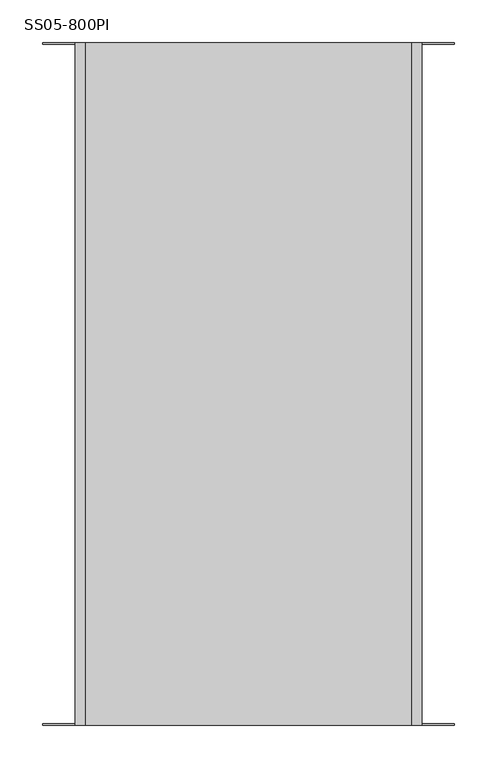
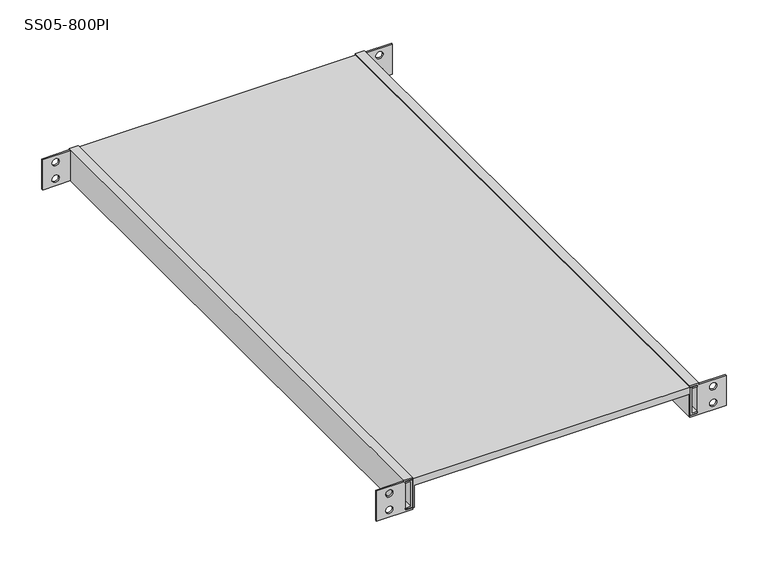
"""IFC4 building model written with IfcOpenShell, lengths in millimetres: proxy geometry, Полки выдвижные : SS05-800PI."""

from ifc_helpers import new_model, si_unit, frame, origin, place, context, project, spatial, polyline, circle_curve, outline, extrude, source, transform, mapped, element, save
from ifc_brep_helpers import plane_surface, revolved_surface, advanced_brep


def ss05_800pi_71e741bb(model_context):
    return source(origin(), model_context, "Body", "SolidModel", [
        extrude(outline(polyline([(44.0, 191.5), (44.0, -191.5), (2.0, -191.5), (2.0, -189.4739095), (34.0, -189.4739095), (34.0, 189.4778277), (2.0, 189.4778277), (2.0, 191.5), (44.0, 191.5)])), frame((0.0, -400.0, 0.0), z_axis=(0.0, 1.0, 0.0), x_axis=(0.0, 0.0, 1.0)), (0.0, 0.0, 1.0), 800.0),
        extrude(outline(polyline([(2.9820525, -191.8921581), (43.0432121, -191.8921581), (43.0432121, -201.5), (41.0432121, -201.5), (41.0432121, -193.8921581), (4.9820525, -193.8921581), (4.9820525, -201.5), (2.9820525, -201.5), (2.9820525, -191.8921581)])), frame((0.0, -400.0, 0.0), z_axis=(0.0, 1.0, 0.0), x_axis=(0.0, 0.0, 1.0)), (0.0, 0.0, 1.0), 800.0),
        extrude(outline(polyline([(2.9820525, 191.8921581), (2.9820525, 201.5), (4.9820525, 201.5), (4.9820525, 193.8921581), (41.0432121, 193.8921581), (41.0432121, 201.5), (43.0432121, 201.5), (43.0432121, 191.8921581), (2.9820525, 191.8921581)])), frame((0.0, -400.0, 0.0), z_axis=(0.0, 1.0, 0.0), x_axis=(0.0, 0.0, 1.0)), (0.0, 0.0, 1.0), 800.0),
        advanced_brep(
        [(-241.5, 398.0, 44.0), (-203.5, 398.0, 44.0), (-203.5, 400.0, 44.0), (-241.5, 400.0, 44.0), (-203.5, -398.0, 44.0), (-241.5, -398.0, 44.0), (-241.5, -400.0, 44.0), (-203.5, -400.0, 44.0), (-241.5, 398.0, 0.0), (-241.5, 400.0, 0.0), (-191.5, 400.0, 0.0), (-191.5, -400.0, 0.0), (-241.5, -400.0, 0.0), (-241.5, -398.0, 0.0), (-203.5, -398.0, 0.0), (-203.5, 398.0, 0.0), (-218.6086696, 398.0, 34.0), (-228.6086696, 398.0, 34.0), (-218.6086696, 398.0, 10.0), (-228.6086696, 398.0, 10.0), (-203.5, 400.0, 46.0), (-191.5, 400.0, 46.0), (-191.5, 400.0, 44.0), (-201.5, 400.0, 44.0), (-201.5, 400.0, 2.0), (-191.5, 400.0, 2.0), (-228.6086696, 400.0, 34.0), (-218.6086696, 400.0, 34.0), (-228.6086696, 400.0, 10.0), (-218.6086696, 400.0, 10.0), (-228.6086696, -398.0, 34.0), (-218.6086696, -398.0, 34.0), (-228.6086696, -398.0, 10.0), (-218.6086696, -398.0, 10.0), (-191.5, -400.0, 2.0), (-201.5, -400.0, 2.0), (-201.5, -400.0, 44.0), (-191.5, -400.0, 44.0), (-191.5, -400.0, 46.0), (-203.5, -400.0, 46.0), (-218.6086696, -400.0, 34.0), (-228.6086696, -400.0, 34.0), (-218.6086696, -400.0, 10.0), (-228.6086696, -400.0, 10.0)],
        [
            (0, 1),
            (1, 2),
            (2, 3),
            (3, 0),
            (4, 5),
            (5, 6),
            (6, 7),
            (7, 4),
            (8, 9),
            (9, 10),
            (10, 11),
            (11, 12),
            (12, 13),
            (13, 14),
            (14, 15),
            (15, 8),
            (0, 8),
            (15, 1),
            (16, 17, circle_curve(frame((-223.6086696, 398.0, 34.0), z_axis=(0.0, 1.0, 0.0), x_axis=(1.0, 0.0, 0.0)), 5.0)),
            (17, 16, circle_curve(frame((-223.6086696, 398.0, 34.0), z_axis=(0.0, 1.0, 0.0), x_axis=(1.0, 0.0, 0.0)), 5.0)),
            (18, 19, circle_curve(frame((-223.6086696, 398.0, 10.0), z_axis=(0.0, 1.0, 0.0), x_axis=(1.0, 0.0, 0.0)), 5.0)),
            (19, 18, circle_curve(frame((-223.6086696, 398.0, 10.0), z_axis=(0.0, 1.0, 0.0), x_axis=(1.0, 0.0, 0.0)), 5.0)),
            (2, 20),
            (20, 21),
            (21, 22),
            (22, 23),
            (23, 24),
            (24, 25),
            (25, 10),
            (9, 3),
            (26, 27, circle_curve(frame((-223.6086696, 400.0, 34.0), z_axis=(0.0, -1.0, 0.0), x_axis=(1.0, 0.0, 0.0)), 5.0)),
            (27, 26, circle_curve(frame((-223.6086696, 400.0, 34.0), z_axis=(0.0, -1.0, 0.0), x_axis=(1.0, 0.0, 0.0)), 5.0)),
            (28, 29, circle_curve(frame((-223.6086696, 400.0, 10.0), z_axis=(0.0, -1.0, 0.0), x_axis=(1.0, 0.0, 0.0)), 5.0)),
            (29, 28, circle_curve(frame((-223.6086696, 400.0, 10.0), z_axis=(0.0, -1.0, 0.0), x_axis=(1.0, 0.0, 0.0)), 5.0)),
            (4, 14),
            (13, 5),
            (30, 31, circle_curve(frame((-223.6086696, -398.0, 34.0), z_axis=(0.0, -1.0, 0.0), x_axis=(1.0, 0.0, 0.0)), 5.0)),
            (31, 30, circle_curve(frame((-223.6086696, -398.0, 34.0), z_axis=(0.0, -1.0, 0.0), x_axis=(1.0, 0.0, 0.0)), 5.0)),
            (32, 33, circle_curve(frame((-223.6086696, -398.0, 10.0), z_axis=(0.0, -1.0, 0.0), x_axis=(1.0, 0.0, 0.0)), 5.0)),
            (33, 32, circle_curve(frame((-223.6086696, -398.0, 10.0), z_axis=(0.0, -1.0, 0.0), x_axis=(1.0, 0.0, 0.0)), 5.0)),
            (12, 6),
            (11, 34),
            (34, 35),
            (35, 36),
            (36, 37),
            (37, 38),
            (38, 39),
            (39, 7),
            (40, 41, circle_curve(frame((-223.6086696, -400.0, 34.0), z_axis=(0.0, 1.0, 0.0), x_axis=(1.0, 0.0, 0.0)), 5.0)),
            (41, 40, circle_curve(frame((-223.6086696, -400.0, 34.0), z_axis=(0.0, 1.0, 0.0), x_axis=(1.0, 0.0, 0.0)), 5.0)),
            (42, 43, circle_curve(frame((-223.6086696, -400.0, 10.0), z_axis=(0.0, 1.0, 0.0), x_axis=(1.0, 0.0, 0.0)), 5.0)),
            (43, 42, circle_curve(frame((-223.6086696, -400.0, 10.0), z_axis=(0.0, 1.0, 0.0), x_axis=(1.0, 0.0, 0.0)), 5.0)),
            (37, 22),
            (21, 38),
            (20, 39),
            (25, 34),
            (24, 35),
            (23, 36),
            (26, 17),
            (16, 27),
            (30, 41),
            (40, 31),
            (28, 19),
            (18, 29),
            (32, 43),
            (42, 33),
        ],
        [
            plane_surface(frame((-203.5, 398.0, 44.0), z_axis=(0.0, 0.0, 1.0), x_axis=(1.0, 0.0, 0.0))),
            plane_surface(frame((-203.5, 398.0, 0.0), z_axis=(0.0, 0.0, -1.0), x_axis=(-1.0, 0.0, 0.0))),
            plane_surface(frame((-241.5, 398.0, 44.0), z_axis=(0.0, -1.0, 0.0), x_axis=(0.0, 0.0, -1.0))),
            plane_surface(frame((-203.5, 400.0, 44.0), z_axis=(0.0, 1.0, 0.0), x_axis=(0.0, 0.0, -1.0))),
            plane_surface(frame((-241.5, 400.0, 44.0), z_axis=(-1.0, 0.0, 0.0), x_axis=(0.0, 0.0, -1.0))),
            plane_surface(frame((-203.5, -398.0, 44.0), z_axis=(0.0, 1.0, 0.0), x_axis=(0.0, 0.0, -1.0))),
            plane_surface(frame((-241.5, -398.0, 44.0), z_axis=(-1.0, 0.0, 0.0), x_axis=(0.0, 0.0, -1.0))),
            plane_surface(frame((-241.5, -400.0, 44.0), z_axis=(0.0, -1.0, 0.0), x_axis=(0.0, 0.0, -1.0))),
            plane_surface(frame((-191.5, -400.0, 44.0), z_axis=(1.0, 0.0, 0.0), x_axis=(0.0, 1.0, 0.0))),
            plane_surface(frame((-191.5, -400.0, 46.0), z_axis=(0.0, 0.0, 1.0), x_axis=(0.0, 1.0, 0.0))),
            plane_surface(frame((-203.5, -400.0, 46.0), z_axis=(-1.0, 0.0, 0.0), x_axis=(0.0, 1.0, 0.0))),
            plane_surface(frame((-191.5, -400.0, 0.0), z_axis=(1.0, 0.0, 0.0), x_axis=(0.0, 1.0, 0.0))),
            plane_surface(frame((-191.5, -400.0, 2.0), z_axis=(0.0, 0.0, 1.0), x_axis=(0.0, 1.0, 0.0))),
            plane_surface(frame((-201.5, -400.0, 2.0), z_axis=(1.0, 0.0, 0.0), x_axis=(0.0, 1.0, 0.0))),
            plane_surface(frame((-201.5, -400.0, 44.0), z_axis=(0.0, 0.0, -1.0), x_axis=(0.0, 1.0, 0.0))),
            revolved_surface(polyline([(-218.6086696, 398.0, 34.0), (-218.6086696, 400.0, 34.0)]), (-223.6086696, 400.0, 34.0), (0.0, -1.0, 0.0)),
            revolved_surface(polyline([(-218.6086696, -400.0, 34.0), (-218.6086696, -398.0, 34.0)]), (-223.6086696, 400.0, 34.0), (0.0, -1.0, 0.0)),
            revolved_surface(polyline([(-218.6086696, 398.0, 10.0), (-218.6086696, 400.0, 10.0)]), (-223.6086696, 0.0, 10.0), (0.0, -1.0, 0.0)),
            revolved_surface(polyline([(-218.6086696, -400.0, 10.0), (-218.6086696, -398.0, 10.0)]), (-223.6086696, 0.0, 10.0), (0.0, -1.0, 0.0)),
        ],
        [
            (0, [[1, 2, 3, 4]]),
            (0, [[5, 6, 7, 8]]),
            (1, [[9, 10, 11, 12, 13, 14, 15, 16]]),
            (2, [[-1, 17, -16, 18], [19, 20], [21, 22]]),
            (3, [[-3, 23, 24, 25, 26, 27, 28, 29, -10, 30], [31, 32], [33, 34]]),
            (4, [[-4, -30, -9, -17]]),
            (5, [[-5, 35, -14, 36], [37, 38], [39, 40]]),
            (6, [[-6, -36, -13, 41]]),
            (7, [[-7, -41, -12, 42, 43, 44, 45, 46, 47, 48], [49, 50], [51, 52]]),
            (8, [[-46, 53, -25, 54]]),
            (9, [[-47, -54, -24, 55]]),
            (10, [[-55, -23, -2, -18, -15, -35, -8, -48]]),
            (11, [[-42, -11, -29, 56]]),
            (12, [[-43, -56, -28, 57]]),
            (13, [[-44, -57, -27, 58]]),
            (14, [[-45, -58, -26, -53]]),
            (15, [[59, -19, 60, -31]]),
            (16, [[61, -49, 62, -37]]),
            (15, [[-59, -32, -60, -20]]),
            (16, [[-61, -38, -62, -50]]),
            (17, [[63, -21, 64, -33]]),
            (18, [[65, -51, 66, -39]]),
            (17, [[-63, -34, -64, -22]]),
            (18, [[-65, -40, -66, -52]]),
        ],
    ),
        advanced_brep(
        [(241.5, -398.0, 44.0), (203.5, -398.0, 44.0), (203.5, -400.0, 44.0), (241.5, -400.0, 44.0), (241.5, 400.0, 44.0), (203.5, 400.0, 44.0), (203.5, 398.0, 44.0), (241.5, 398.0, 44.0), (241.5, -398.0, 0.0), (241.5, -400.0, 0.0), (191.5, -400.0, 0.0), (191.5, 400.0, 0.0), (241.5, 400.0, 0.0), (241.5, 398.0, 0.0), (203.5, 398.0, 0.0), (203.5, -398.0, 0.0), (191.5, 400.0, 2.0), (201.5, 400.0, 2.0), (201.5, 400.0, 44.0), (191.5, 400.0, 44.0), (191.5, 400.0, 46.0), (203.5, 400.0, 46.0), (218.6086696, 400.0, 34.0), (228.6086696, 400.0, 34.0), (218.6086696, 400.0, 10.0), (228.6086696, 400.0, 10.0), (203.5, -400.0, 46.0), (191.5, -400.0, 46.0), (191.5, -400.0, 44.0), (201.5, -400.0, 44.0), (201.5, -400.0, 2.0), (191.5, -400.0, 2.0), (228.6086696, -400.0, 34.0), (218.6086696, -400.0, 34.0), (228.6086696, -400.0, 10.0), (218.6086696, -400.0, 10.0), (218.6086696, -398.0, 34.0), (228.6086696, -398.0, 34.0), (218.6086696, -398.0, 10.0), (228.6086696, -398.0, 10.0), (228.6086696, 398.0, 34.0), (218.6086696, 398.0, 34.0), (228.6086696, 398.0, 10.0), (218.6086696, 398.0, 10.0)],
        [
            (0, 1),
            (1, 2),
            (2, 3),
            (3, 0),
            (4, 5),
            (5, 6),
            (6, 7),
            (7, 4),
            (8, 9),
            (9, 10),
            (10, 11),
            (11, 12),
            (12, 13),
            (13, 14),
            (14, 15),
            (15, 8),
            (4, 12),
            (11, 16),
            (16, 17),
            (17, 18),
            (18, 19),
            (19, 20),
            (20, 21),
            (21, 5),
            (22, 23, circle_curve(frame((223.6086696, 400.0, 34.0), z_axis=(0.0, -1.0, 0.0), x_axis=(1.0, 0.0, 0.0)), 5.0)),
            (23, 22, circle_curve(frame((223.6086696, 400.0, 34.0), z_axis=(0.0, -1.0, 0.0), x_axis=(1.0, 0.0, 0.0)), 5.0)),
            (24, 25, circle_curve(frame((223.6086696, 400.0, 10.0), z_axis=(0.0, -1.0, 0.0), x_axis=(1.0, 0.0, 0.0)), 5.0)),
            (25, 24, circle_curve(frame((223.6086696, 400.0, 10.0), z_axis=(0.0, -1.0, 0.0), x_axis=(1.0, 0.0, 0.0)), 5.0)),
            (2, 26),
            (26, 27),
            (27, 28),
            (28, 29),
            (29, 30),
            (30, 31),
            (31, 10),
            (9, 3),
            (32, 33, circle_curve(frame((223.6086696, -400.0, 34.0), z_axis=(0.0, 1.0, 0.0), x_axis=(1.0, 0.0, 0.0)), 5.0)),
            (33, 32, circle_curve(frame((223.6086696, -400.0, 34.0), z_axis=(0.0, 1.0, 0.0), x_axis=(1.0, 0.0, 0.0)), 5.0)),
            (34, 35, circle_curve(frame((223.6086696, -400.0, 10.0), z_axis=(0.0, 1.0, 0.0), x_axis=(1.0, 0.0, 0.0)), 5.0)),
            (35, 34, circle_curve(frame((223.6086696, -400.0, 10.0), z_axis=(0.0, 1.0, 0.0), x_axis=(1.0, 0.0, 0.0)), 5.0)),
            (0, 8),
            (15, 1),
            (36, 37, circle_curve(frame((223.6086696, -398.0, 34.0), z_axis=(0.0, -1.0, 0.0), x_axis=(1.0, 0.0, 0.0)), 5.0)),
            (37, 36, circle_curve(frame((223.6086696, -398.0, 34.0), z_axis=(0.0, -1.0, 0.0), x_axis=(1.0, 0.0, 0.0)), 5.0)),
            (38, 39, circle_curve(frame((223.6086696, -398.0, 10.0), z_axis=(0.0, -1.0, 0.0), x_axis=(1.0, 0.0, 0.0)), 5.0)),
            (39, 38, circle_curve(frame((223.6086696, -398.0, 10.0), z_axis=(0.0, -1.0, 0.0), x_axis=(1.0, 0.0, 0.0)), 5.0)),
            (6, 14),
            (13, 7),
            (40, 41, circle_curve(frame((223.6086696, 398.0, 34.0), z_axis=(0.0, 1.0, 0.0), x_axis=(1.0, 0.0, 0.0)), 5.0)),
            (41, 40, circle_curve(frame((223.6086696, 398.0, 34.0), z_axis=(0.0, 1.0, 0.0), x_axis=(1.0, 0.0, 0.0)), 5.0)),
            (42, 43, circle_curve(frame((223.6086696, 398.0, 10.0), z_axis=(0.0, 1.0, 0.0), x_axis=(1.0, 0.0, 0.0)), 5.0)),
            (43, 42, circle_curve(frame((223.6086696, 398.0, 10.0), z_axis=(0.0, 1.0, 0.0), x_axis=(1.0, 0.0, 0.0)), 5.0)),
            (28, 19),
            (18, 29),
            (17, 30),
            (16, 31),
            (21, 26),
            (20, 27),
            (36, 33),
            (32, 37),
            (22, 41),
            (40, 23),
            (38, 35),
            (34, 39),
            (24, 43),
            (42, 25),
        ],
        [
            plane_surface(frame((-203.5, 398.0, 44.0), z_axis=(0.0, 0.0, 1.0), x_axis=(1.0, 0.0, 0.0))),
            plane_surface(frame((-203.5, 398.0, 0.0), z_axis=(0.0, 0.0, -1.0), x_axis=(-1.0, 0.0, 0.0))),
            plane_surface(frame((-203.5, 400.0, 44.0), z_axis=(0.0, 1.0, 0.0), x_axis=(0.0, 0.0, -1.0))),
            plane_surface(frame((-241.5, -400.0, 44.0), z_axis=(0.0, -1.0, 0.0), x_axis=(0.0, 0.0, -1.0))),
            plane_surface(frame((241.5, -398.0, 44.0), z_axis=(0.0, 1.0, 0.0), x_axis=(0.0, 0.0, -1.0))),
            plane_surface(frame((241.5, -400.0, 44.0), z_axis=(1.0, 0.0, 0.0), x_axis=(0.0, 0.0, -1.0))),
            plane_surface(frame((203.5, 398.0, 44.0), z_axis=(0.0, -1.0, 0.0), x_axis=(0.0, 0.0, -1.0))),
            plane_surface(frame((241.5, 398.0, 44.0), z_axis=(1.0, 0.0, 0.0), x_axis=(0.0, 0.0, -1.0))),
            plane_surface(frame((191.5, -400.0, 44.0), z_axis=(0.0, 0.0, -1.0), x_axis=(0.0, 1.0, 0.0))),
            plane_surface(frame((201.5, -400.0, 44.0), z_axis=(-1.0, 0.0, 0.0), x_axis=(0.0, 1.0, 0.0))),
            plane_surface(frame((201.5, -400.0, 2.0), z_axis=(0.0, 0.0, 1.0), x_axis=(0.0, 1.0, 0.0))),
            plane_surface(frame((191.5, -400.0, 2.0), z_axis=(-1.0, 0.0, 0.0), x_axis=(0.0, 1.0, 0.0))),
            plane_surface(frame((203.5, -400.0, 0.0), z_axis=(1.0, 0.0, 0.0), x_axis=(0.0, 1.0, 0.0))),
            plane_surface(frame((203.5, -400.0, 46.0), z_axis=(0.0, 0.0, 1.0), x_axis=(0.0, 1.0, 0.0))),
            plane_surface(frame((191.5, -400.0, 46.0), z_axis=(-1.0, 0.0, 0.0), x_axis=(0.0, 1.0, 0.0))),
            revolved_surface(polyline([(228.6086696, -400.0, 34.0), (228.6086696, -398.0, 34.0)]), (223.6086696, 0.0, 34.0), (0.0, -1.0, 0.0)),
            revolved_surface(polyline([(228.6086696, 398.0, 34.0), (228.6086696, 400.0, 34.0)]), (223.6086696, 0.0, 34.0), (0.0, -1.0, 0.0)),
            revolved_surface(polyline([(228.6086696, -400.0, 10.0), (228.6086696, -398.0, 10.0)]), (223.6086696, 0.0, 10.0), (0.0, -1.0, 0.0)),
            revolved_surface(polyline([(228.6086696, 398.0, 10.0), (228.6086696, 400.0, 10.0)]), (223.6086696, 0.0, 10.0), (0.0, -1.0, 0.0)),
        ],
        [
            (0, [[1, 2, 3, 4]]),
            (0, [[5, 6, 7, 8]]),
            (1, [[9, 10, 11, 12, 13, 14, 15, 16]]),
            (2, [[-5, 17, -12, 18, 19, 20, 21, 22, 23, 24], [25, 26], [27, 28]]),
            (3, [[-3, 29, 30, 31, 32, 33, 34, 35, -10, 36], [37, 38], [39, 40]]),
            (4, [[-1, 41, -16, 42], [43, 44], [45, 46]]),
            (5, [[-4, -36, -9, -41]]),
            (6, [[-7, 47, -14, 48], [49, 50], [51, 52]]),
            (7, [[-8, -48, -13, -17]]),
            (8, [[-32, 53, -21, 54]]),
            (9, [[-33, -54, -20, 55]]),
            (10, [[-34, -55, -19, 56]]),
            (11, [[-35, -56, -18, -11]]),
            (12, [[57, -29, -2, -42, -15, -47, -6, -24]]),
            (13, [[-30, -57, -23, 58]]),
            (14, [[-31, -58, -22, -53]]),
            (15, [[59, -37, 60, -43]]),
            (16, [[61, -49, 62, -25]]),
            (15, [[-59, -44, -60, -38]]),
            (16, [[-61, -26, -62, -50]]),
            (17, [[63, -39, 64, -45]]),
            (18, [[65, -51, 66, -27]]),
            (17, [[-63, -46, -64, -40]]),
            (18, [[-65, -28, -66, -52]]),
        ],
    ),
    ])


if __name__ == "__main__":
    model = new_model("IFC4")
    model_context = context("Model", 3, world=origin())
    ifc_project = project(units=[si_unit("LENGTHUNIT", "METRE", prefix="MILLI")], contexts=[model_context])
    site = spatial("IfcSite", under=ifc_project)
    building = spatial("IfcBuilding", under=site)
    placement = place(None, origin())
    ss05_800pi_shape = ss05_800pi_71e741bb(model_context)
    element("IfcBuildingElementProxy", 1, Name="Полки выдвижные : SS05-800PI", ObjectType="Полки выдвижные : SS05-800PI", at=placement, inside=building, context=model_context, shape_type="MappedRepresentation", body=[
        mapped(ss05_800pi_shape, transform((0.0, 0.0, 0.0), x_axis=(1.0, 0.0, 0.0), y_axis=(0.0, 1.0, 0.0), z_axis=(0.0, 0.0, 1.0))),
    ])
    save(model, "model.ifc")
